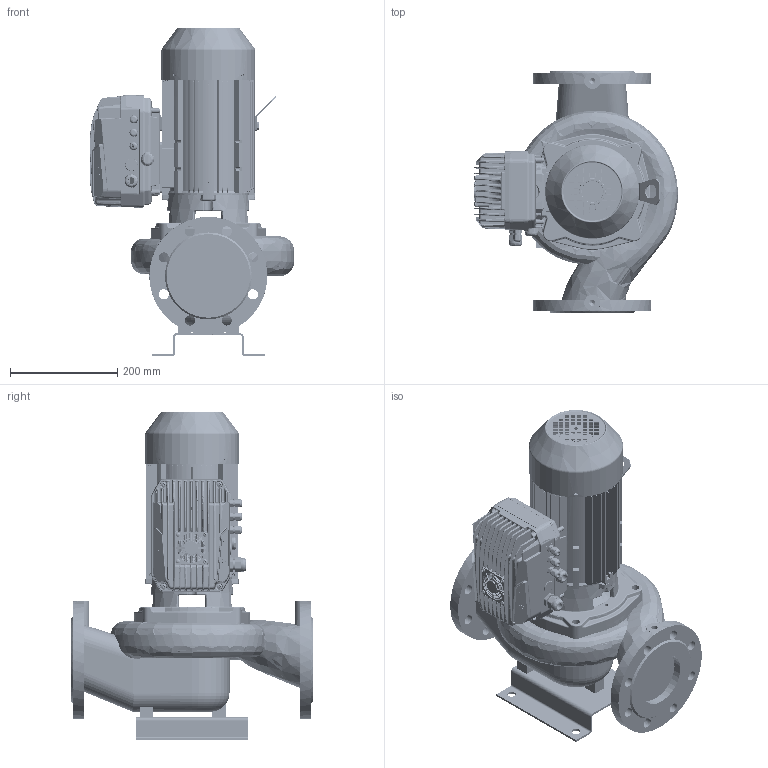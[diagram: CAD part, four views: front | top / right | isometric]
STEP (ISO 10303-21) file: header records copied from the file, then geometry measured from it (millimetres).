
FILE_DESCRIPTION(('STEP AP214'),'1');
FILE_NAME('export.stp','2022-09-07T07:01:53',(' '),(' '),'Spatial InterOp 3D',' ',' ');
FILE_SCHEMA(('AUTOMOTIVE_DESIGN { 1 0 10303 214 1 1 1 1 }'));
Length unit declared in the file: millimetre
Products named in the file (49): V_AdapMida205_407; 210588; DIN_7985-M5X8; W_AL11024MDKP90; V_JALKA35973; V_TLL65AB80A1102; V_PPAL1102; 160024; 160004_Valu; V_MKP90-2_F19; 480039; 480038___; 160141; 160137; 160138; 160139; 160140; Koura_Ale_M5; Plug_Blind_M20; Sealing_Plug_M20; DIN_7985-M5X12; 480037; 480036___; 160135; 160134; DIN_EN_24017_-_M8_16-Stainless_S; MIDA_180deg; BASE_MIDA_NASTEC_89; 3005020100_AF0_157; PRT0001; PRT0002; PRT0003; PRT0005; PRT0006; PRT0007; V4-25--_-_U7687_PZ_AF0_5; V4-25--_-_U7687_PZ_AF1_5; V4-25--_-_U7687_PZ_AF2_5; V4-25--_-_U7687_PZ_AF3_5; V5-30--_-_U7687_PZ_AF0_5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
Assembly tree (54 placements, depth 4):
  W_AL11024MDKP90
    V_AdapMida205_407
      210588
      DIN_7985-M5X8  x2
    V_JALKA35973
    V_TLL65AB80A1102
    V_PPAL1102
    V_MKP90-2_F19
      160024
        160004_Valu
      480039
        480038___
      160141
        160137
        160138
        160139
        160140
        Koura_Ale_M5
        Plug_Blind_M20
        Sealing_Plug_M20
        DIN_7985-M5X8
        DIN_7985-M5X12  x4
      480037
        480036___
      160135
      160134  x2
      DIN_EN_24017_-_M8_16-Stainless_S  x2
    Mida205
      MIDA_180deg
        BASE_MIDA_NASTEC_89
        3005020100_AF0_157
        PRT0001
        PRT0002
        PRT0003
        PRT0005
        PRT0006
        PRT0007
        V4-25--_-_U7687_PZ_AF0_5
        V4-25--_-_U7687_PZ_AF1_5
        V4-25--_-_U7687_PZ_AF2_5
        V4-25--_-_U7687_PZ_AF3_5
        V5-30--_-_U7687_PZ_AF0_5
        V5-30--_-_U7687_PZ_AF1_5
        V5-30--_-_U7687_PZ_AF2_5
        V5-30--_-_U7687_PZ_5
        2001300200_32
        TASTIERA_MIDA_2_44
        ETICHETTA_MIDA_9
        TAPPO_PRESSACAVO_M20_5
Bounding box: 381 x 450 x 612.99 mm (x, y, z)
Volume: 3193751.3 mm3; surface area: 2668609.8 mm2
Topology: 45 solids, 46 shells, 6658 faces, 17340 edges, 10738 vertices
Faces by surface type: plane 2380, cylinder 2119, bspline 1380, cone 440, torus 294, sphere 37, offset 8
Entity records: 336155 total; most frequent: CARTESIAN_POINT 154817, ORIENTED_EDGE 33706, DIRECTION 24980, EDGE_CURVE 16857, VERTEX_POINT 10529, AXIS2_PLACEMENT_3D 9145, EDGE_LOOP 7089, LINE 6690
